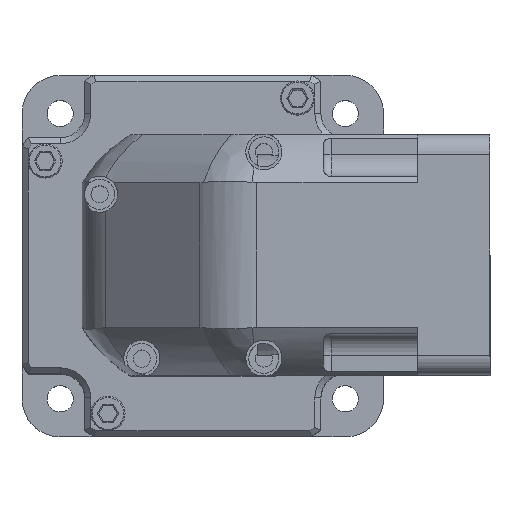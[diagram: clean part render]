
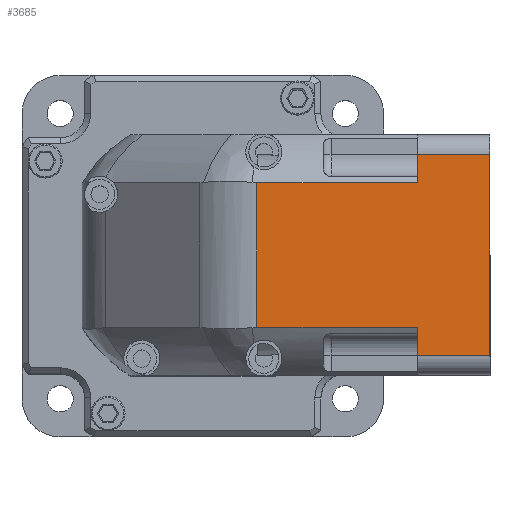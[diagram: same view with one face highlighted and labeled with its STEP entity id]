
A CAD part, top view. The second image highlights one B-rep face of the part: STEP entity #3685.
In plain terms, the highlighted planar face has unit normal (0, 0, 1).
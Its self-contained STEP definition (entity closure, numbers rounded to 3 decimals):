
#264=CARTESIAN_POINT('',(53.5,18.028,106.1));
#265=VERTEX_POINT('',#264);
#275=CARTESIAN_POINT('',(53.5,25.,106.1));
#276=VERTEX_POINT('',#275);
#277=CARTESIAN_POINT('',(53.5,18.028,106.1));
#278=DIRECTION('',(0.0,1.0,0.0));
#279=VECTOR('',#278,6.972);
#280=LINE('',#277,#279);
#281=EDGE_CURVE('',#265,#276,#280,.T.);
#342=CARTESIAN_POINT('',(53.5,-18.028,106.1));
#343=VERTEX_POINT('',#342);
#393=CARTESIAN_POINT('',(53.5,-25.,106.1));
#394=VERTEX_POINT('',#393);
#402=CARTESIAN_POINT('',(53.5,-25.,106.1));
#403=DIRECTION('',(0.0,1.0,0.0));
#404=VECTOR('',#403,6.972);
#405=LINE('',#402,#404);
#406=EDGE_CURVE('',#394,#343,#405,.T.);
#855=CARTESIAN_POINT('',(71.5,25.,106.1));
#856=VERTEX_POINT('',#855);
#873=CARTESIAN_POINT('',(53.5,25.,106.1));
#874=DIRECTION('',(1.0,0.0,0.0));
#875=VECTOR('',#874,18.0);
#876=LINE('',#873,#875);
#877=EDGE_CURVE('',#276,#856,#876,.T.);
#953=CARTESIAN_POINT('',(71.5,-25.,106.1));
#954=VERTEX_POINT('',#953);
#962=CARTESIAN_POINT('',(53.5,-25.,106.1));
#963=DIRECTION('',(1.0,0.0,0.0));
#964=VECTOR('',#963,18.0);
#965=LINE('',#962,#964);
#966=EDGE_CURVE('',#394,#954,#965,.T.);
#984=CARTESIAN_POINT('',(71.5,-25.,106.1));
#985=DIRECTION('',(0.0,1.0,0.0));
#986=VECTOR('',#985,50.0);
#987=LINE('',#984,#986);
#988=EDGE_CURVE('',#954,#856,#987,.T.);
#3600=CARTESIAN_POINT('',(13.431,-18.028,106.1));
#3601=VERTEX_POINT('',#3600);
#3602=CARTESIAN_POINT('',(13.431,-18.028,106.1));
#3603=DIRECTION('',(1.0,0.0,0.0));
#3604=VECTOR('',#3603,40.069);
#3605=LINE('',#3602,#3604);
#3606=EDGE_CURVE('',#3601,#343,#3605,.T.);
#3658=CARTESIAN_POINT('',(0.,0.,106.1));
#3659=DIRECTION('',(0.0,0.0,-1.0));
#3660=DIRECTION('',(0.0,-1.0,0.0));
#3661=AXIS2_PLACEMENT_3D('',#3658,#3659,#3660);
#3662=PLANE('',#3661);
#3663=CARTESIAN_POINT('',(13.431,18.028,106.1));
#3664=VERTEX_POINT('',#3663);
#3665=CARTESIAN_POINT('',(53.5,18.028,106.1));
#3666=DIRECTION('',(-1.0,0.0,0.0));
#3667=VECTOR('',#3666,40.069);
#3668=LINE('',#3665,#3667);
#3669=EDGE_CURVE('',#265,#3664,#3668,.T.);
#3670=ORIENTED_EDGE('',*,*,#3669,.T.);
#3671=CARTESIAN_POINT('',(13.431,-18.028,106.1));
#3672=DIRECTION('',(0.0,1.0,0.0));
#3673=VECTOR('',#3672,36.056);
#3674=LINE('',#3671,#3673);
#3675=EDGE_CURVE('',#3601,#3664,#3674,.T.);
#3676=ORIENTED_EDGE('',*,*,#3675,.F.);
#3677=ORIENTED_EDGE('',*,*,#3606,.T.);
#3678=ORIENTED_EDGE('',*,*,#406,.F.);
#3679=ORIENTED_EDGE('',*,*,#966,.T.);
#3680=ORIENTED_EDGE('',*,*,#988,.T.);
#3681=ORIENTED_EDGE('',*,*,#877,.F.);
#3682=ORIENTED_EDGE('',*,*,#281,.F.);
#3683=EDGE_LOOP('',(#3670,#3676,#3677,#3678,#3679,#3680,#3681,#3682));
#3684=FACE_OUTER_BOUND('',#3683,.T.);
#3685=ADVANCED_FACE('',(#3684),#3662,.F.);
